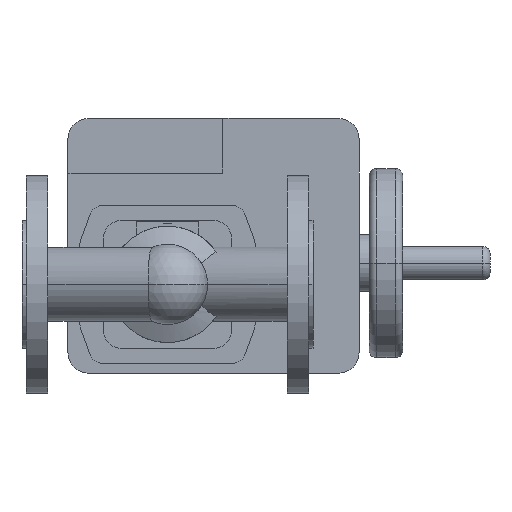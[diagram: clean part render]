
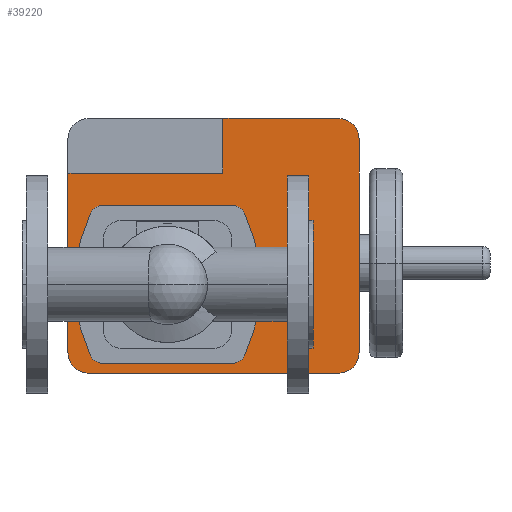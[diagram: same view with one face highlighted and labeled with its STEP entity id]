
A CAD part, front view. The second image highlights one B-rep face of the part: STEP entity #39220.
In plain terms, the highlighted planar face has unit normal (0, -1, 0).
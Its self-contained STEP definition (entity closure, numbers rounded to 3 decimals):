
#37040=CARTESIAN_POINT('',(144.784,387.,54.2));
#37050=VERTEX_POINT('',#37040);
#37080=CARTESIAN_POINT('',(144.784,387.,45.2));
#37090=DIRECTION('',(0.,1.,0.));
#37100=DIRECTION('',(0.,0.,1.));
#37110=AXIS2_PLACEMENT_3D('',#37080,#37090,#37100);
#37120=CIRCLE('',#37110,9.);
#37130=CARTESIAN_POINT('',(152.942,387.,49.002));
#37140=VERTEX_POINT('',#37130);
#37150=EDGE_CURVE('',#37050,#37140,#37120,.T.);
#37330=CARTESIAN_POINT('',(47.8,387.,0.));
#37340=DIRECTION('',(0.,1.,0.));
#37350=DIRECTION('',(0.906,0.,0.422));
#37360=AXIS2_PLACEMENT_3D('',#37330,#37340,#37350);
#37370=CIRCLE('',#37360,116.);
#37380=CARTESIAN_POINT('',(152.942,387.,-49.002));
#37390=VERTEX_POINT('',#37380);
#37400=EDGE_CURVE('',#37140,#37390,#37370,.T.);
#37580=CARTESIAN_POINT('',(144.784,387.,-45.2));
#37590=DIRECTION('',(0.,1.,0.));
#37600=DIRECTION('',(0.906,0.,-0.422));
#37610=AXIS2_PLACEMENT_3D('',#37580,#37590,#37600);
#37620=CIRCLE('',#37610,9.);
#37630=CARTESIAN_POINT('',(144.784,387.,-54.2));
#37640=VERTEX_POINT('',#37630);
#37650=EDGE_CURVE('',#37390,#37640,#37620,.T.);
#37830=CARTESIAN_POINT('',(122.392,387.,-54.2));
#37840=DIRECTION('',(-1.,0.,0.));
#37850=VECTOR('',#37840,1.);
#37860=LINE('',#37830,#37850);
#37870=CARTESIAN_POINT('',(55.216,387.,-54.2));
#37880=VERTEX_POINT('',#37870);
#37890=EDGE_CURVE('',#37640,#37880,#37860,.T.);
#38010=CARTESIAN_POINT('',(100.,387.,0.));
#38020=DIRECTION('',(0.,1.,0.));
#38030=DIRECTION('',(0.,0.,1.));
#38040=AXIS2_PLACEMENT_3D('',#38010,#38020,#38030);
#38050=PLANE('',#38040);
#38060=CARTESIAN_POINT('',(152.2,387.,0.));
#38070=DIRECTION('',(0.,1.,0.));
#38080=DIRECTION('',(-0.906,0.,-0.422));
#38090=AXIS2_PLACEMENT_3D('',#38060,#38070,#38080);
#38100=CIRCLE('',#38090,116.);
#38110=CARTESIAN_POINT('',(47.058,387.,-49.002));
#38120=VERTEX_POINT('',#38110);
#38130=CARTESIAN_POINT('',(47.058,387.,49.002));
#38140=VERTEX_POINT('',#38130);
#38150=EDGE_CURVE('',#38120,#38140,#38100,.T.);
#38160=ORIENTED_EDGE('',*,*,#38150,.T.);
#38170=CARTESIAN_POINT('',(55.216,387.,-45.2));
#38180=DIRECTION('',(0.,1.,0.));
#38190=DIRECTION('',(0.,0.,-1.));
#38200=AXIS2_PLACEMENT_3D('',#38170,#38180,#38190);
#38210=CIRCLE('',#38200,9.);
#38220=EDGE_CURVE('',#37880,#38120,#38210,.T.);
#38230=ORIENTED_EDGE('',*,*,#38220,.T.);
#38240=ORIENTED_EDGE('',*,*,#37890,.T.);
#38250=ORIENTED_EDGE('',*,*,#37650,.T.);
#38260=ORIENTED_EDGE('',*,*,#37400,.T.);
#38270=ORIENTED_EDGE('',*,*,#37150,.T.);
#38280=CARTESIAN_POINT('',(77.608,387.,54.2));
#38290=DIRECTION('',(1.,0.,0.));
#38300=VECTOR('',#38290,1.);
#38310=LINE('',#38280,#38300);
#38320=CARTESIAN_POINT('',(55.216,387.,54.2));
#38330=VERTEX_POINT('',#38320);
#38340=EDGE_CURVE('',#38330,#37050,#38310,.T.);
#38350=ORIENTED_EDGE('',*,*,#38340,.T.);
#38360=CARTESIAN_POINT('',(55.216,387.,45.2));
#38370=DIRECTION('',(0.,1.,0.));
#38380=DIRECTION('',(-0.906,0.,0.422));
#38390=AXIS2_PLACEMENT_3D('',#38360,#38370,#38380);
#38400=CIRCLE('',#38390,9.);
#38410=EDGE_CURVE('',#38140,#38330,#38400,.T.);
#38420=ORIENTED_EDGE('',*,*,#38410,.T.);
#38430=EDGE_LOOP('',(#38420,#38350,#38270,#38260,#38250,#38240,#38230,
#38160));
#38440=FACE_BOUND('',#38430,.T.);
#38450=CARTESIAN_POINT('',(138.1,387.,38.25));
#38460=DIRECTION('',(0.,0.,-1.));
#38470=VECTOR('',#38460,1.);
#38480=LINE('',#38450,#38470);
#38490=CARTESIAN_POINT('',(138.1,387.,114.));
#38500=VERTEX_POINT('',#38490);
#38510=CARTESIAN_POINT('',(138.1,387.,76.5));
#38520=VERTEX_POINT('',#38510);
#38530=EDGE_CURVE('',#38500,#38520,#38480,.T.);
#38540=ORIENTED_EDGE('',*,*,#38530,.T.);
#38550=CARTESIAN_POINT('',(45.6,387.,114.));
#38560=DIRECTION('',(1.,0.,0.));
#38570=VECTOR('',#38560,1.);
#38580=LINE('',#38550,#38570);
#38590=CARTESIAN_POINT('',(217.6,387.,114.));
#38600=VERTEX_POINT('',#38590);
#38610=EDGE_CURVE('',#38500,#38600,#38580,.T.);
#38620=ORIENTED_EDGE('',*,*,#38610,.F.);
#38630=CARTESIAN_POINT('',(217.6,387.,100.));
#38640=DIRECTION('',(0.,1.,0.));
#38650=DIRECTION('',(0.,0.,1.));
#38660=AXIS2_PLACEMENT_3D('',#38630,#38640,#38650);
#38670=CIRCLE('',#38660,14.);
#38680=CARTESIAN_POINT('',(231.6,387.,100.));
#38690=VERTEX_POINT('',#38680);
#38700=EDGE_CURVE('',#38600,#38690,#38670,.T.);
#38710=ORIENTED_EDGE('',*,*,#38700,.F.);
#38720=CARTESIAN_POINT('',(231.6,387.,100.));
#38730=DIRECTION('',(0.,0.,-1.));
#38740=VECTOR('',#38730,1.);
#38750=LINE('',#38720,#38740);
#38760=CARTESIAN_POINT('',(231.6,387.,-47.));
#38770=VERTEX_POINT('',#38760);
#38780=EDGE_CURVE('',#38690,#38770,#38750,.T.);
#38790=ORIENTED_EDGE('',*,*,#38780,.F.);
#38800=CARTESIAN_POINT('',(217.6,387.,-47.));
#38810=DIRECTION('',(0.,1.,0.));
#38820=DIRECTION('',(1.,0.,0.));
#38830=AXIS2_PLACEMENT_3D('',#38800,#38810,#38820);
#38840=CIRCLE('',#38830,14.);
#38850=CARTESIAN_POINT('',(217.6,387.,-61.));
#38860=VERTEX_POINT('',#38850);
#38870=EDGE_CURVE('',#38770,#38860,#38840,.T.);
#38880=ORIENTED_EDGE('',*,*,#38870,.F.);
#38890=CARTESIAN_POINT('',(217.6,387.,-61.));
#38900=DIRECTION('',(-1.,0.,0.));
#38910=VECTOR('',#38900,1.);
#38920=LINE('',#38890,#38910);
#38930=CARTESIAN_POINT('',(45.6,387.,-61.));
#38940=VERTEX_POINT('',#38930);
#38950=EDGE_CURVE('',#38860,#38940,#38920,.T.);
#38960=ORIENTED_EDGE('',*,*,#38950,.F.);
#38970=CARTESIAN_POINT('',(45.6,387.,-47.));
#38980=DIRECTION('',(0.,1.,0.));
#38990=DIRECTION('',(0.,0.,-1.));
#39000=AXIS2_PLACEMENT_3D('',#38970,#38980,#38990);
#39010=CIRCLE('',#39000,14.);
#39020=CARTESIAN_POINT('',(31.6,387.,-47.));
#39030=VERTEX_POINT('',#39020);
#39040=EDGE_CURVE('',#38940,#39030,#39010,.T.);
#39050=ORIENTED_EDGE('',*,*,#39040,.F.);
#39060=CARTESIAN_POINT('',(31.6,387.,-47.));
#39070=DIRECTION('',(0.,0.,1.));
#39080=VECTOR('',#39070,1.);
#39090=LINE('',#39060,#39080);
#39100=CARTESIAN_POINT('',(31.6,387.,76.5));
#39110=VERTEX_POINT('',#39100);
#39120=EDGE_CURVE('',#39030,#39110,#39090,.T.);
#39130=ORIENTED_EDGE('',*,*,#39120,.F.);
#39140=CARTESIAN_POINT('',(65.3,387.,76.5));
#39150=DIRECTION('',(-1.,0.,0.));
#39160=VECTOR('',#39150,1.);
#39170=LINE('',#39140,#39160);
#39180=EDGE_CURVE('',#38520,#39110,#39170,.T.);
#39190=ORIENTED_EDGE('',*,*,#39180,.T.);
#39200=EDGE_LOOP('',(#39190,#39130,#39050,#38960,#38880,#38790,#38710,
#38620,#38540));
#39210=FACE_OUTER_BOUND('',#39200,.T.);
#39220=ADVANCED_FACE('',(#38440,#39210),#38050,.F.);
